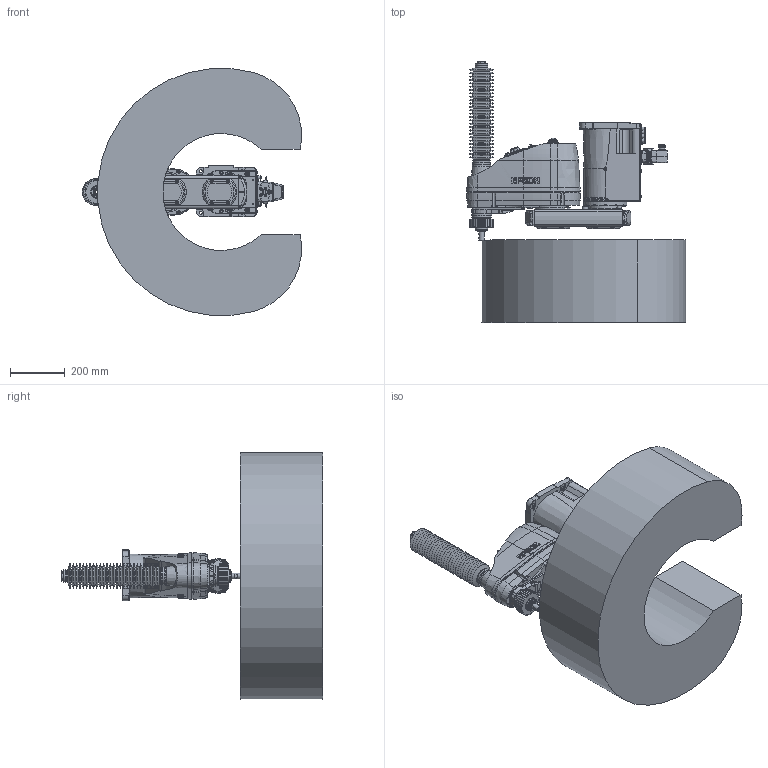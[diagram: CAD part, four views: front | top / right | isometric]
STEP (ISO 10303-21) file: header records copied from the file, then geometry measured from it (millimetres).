
FILE_DESCRIPTION( ( 'STEP AP214' ), '1' );
FILE_NAME( 'C:/Users/9607552/Desktop/GX8-B453CR_langle.stp', '2023-07-07T01:48:19', ( '' ), ( '' ), ' ', 'PARTsolutions', ' ' );
FILE_SCHEMA( ( 'AUTOMOTIVE_DESIGN { 1 0 10303 214 1 1 1 1 }' ) );
Length unit declared in the file: millimetre
Products named in the file (11): GX8-B453CRA-W; _B452CR_BASE; _B452CR; _B452CR_1; _B452CR_2; _B452C_J2; _B453CZA; _2-B-long; _2-B-short; _Angle-B; _GX8-11-1-B_WS
Assembly tree (12 placements, depth 2):
  GX8-B453CRA-W
    _B452CR_BASE
    _B452CR
    _B452CR_1  x2
    _B452CR_2  x2
    _B452C_J2
    _B453CZA
    _2-B-long
    _2-B-short
    _Angle-B
    _GX8-11-1-B_WS
Bounding box: 797.24 x 950.5 x 896.58 mm (x, y, z)
Volume: 137630769.7 mm3; surface area: 3319862.2 mm2
Topology: 12 solids, 16 shells, 3389 faces, 8115 edges, 5227 vertices
Faces by surface type: plane 1606, cylinder 1117, cone 465, torus 159, bspline 37, sphere 5
Full cylindrical faces by diameter (mm): 1 x48, 1.18 x55, 2.261 x4, 2.459 x12, 3 x32, 3.242 x18, 3.3 x4, 3.9 x4, 4.2 x8, 4.5 x12, 4.8 x4, 5.34 x4, 5.5 x17, 6 x5, 6.2 x4, 6.647 x4, 6.8 x2, 7 x48, 8 x5, 8.5 x6, 9 x24, 10 x18, 11 x4, 11.2 x7, 11.5 x1, 12 x5, 12.2 x1, 12.25 x1, 13 x3, 13.2 x12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
Entity records: 119700 total; most frequent: CARTESIAN_POINT 22227, DIRECTION 14962, ORIENTED_EDGE 13308, EDGE_CURVE 6654, AXIS2_PLACEMENT_3D 5882, VERTEX_POINT 4849, EDGE_LOOP 4645, FACE_OUTER_BOUND 3834
